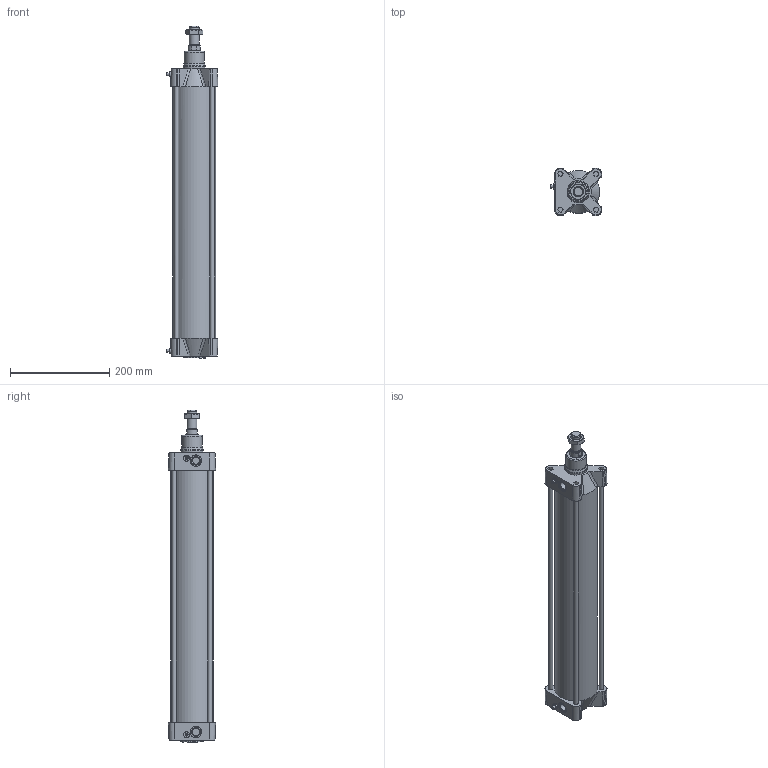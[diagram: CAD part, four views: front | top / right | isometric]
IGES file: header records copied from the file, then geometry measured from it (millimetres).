
Global section: file name: 1393_080_0450_01; native system: Autodesk Inventor 2014; preprocessor: unknown; author: A. Manieri; date: 20151130.150814; units: millimetre
Bounding box: 104 x 95 x 668 mm (x, y, z)
Volume: 1571559.6 mm3; surface area: 461704.7 mm2
Topology: 3 solids, 5 shells, 233 faces, 578 edges, 377 vertices
Faces by surface type: bspline 233
